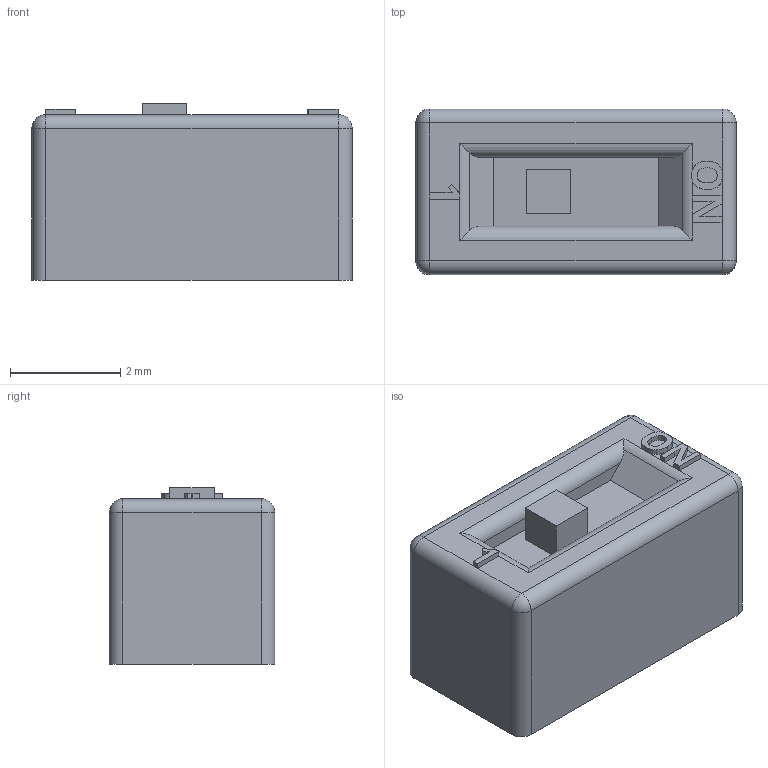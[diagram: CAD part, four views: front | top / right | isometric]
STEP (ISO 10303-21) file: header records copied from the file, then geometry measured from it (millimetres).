
FILE_DESCRIPTION(/* description */ ('STEP AP242 Edition 2','CAx-IF Rec.Pracs.---Representation and Presentation of Product Manufacturing Information (PMI)---4.0---2014-10-13','CAx-IF Rec.Pracs.---3D Tessellated Geometry---0.4---2014-09-14','2;1','CAx-IF Rec.Pracs.---User Defined Attributes---1.5---2016-08-15'),/* implementation_level */ '2;1');
FILE_NAME(/* name */ 'v2_assembly - v2 - dip_switch',/* time_stamp */ '2026-05-19T16:26:08Z',/* author */ (''),/* organization */ (''),/* preprocessor_version */ 'ST-DEVELOPER v20',/* originating_system */ 'ONSHAPE BY PTC INC, 1.215',/* authorisation */ ' ');
FILE_SCHEMA (('AP242_MANAGED_MODEL_BASED_3D_ENGINEERING_MIM_LF { 1 0 10303 442 3 1 4 }'));
Length unit declared in the file: metre
Products named in the file (1): v2 - dip_switch
Bounding box: 5.8 x 3 x 3.2 mm (x, y, z)
Volume: 50 mm3; surface area: 90.5 mm2
Topology: 1 solids, 1 shells, 78 faces, 202 edges, 124 vertices
Faces by surface type: plane 46, cylinder 18, bspline 10, sphere 4
Entity records: 2436 total; most frequent: CARTESIAN_POINT 538, ORIENTED_EDGE 396, DIRECTION 344, EDGE_CURVE 198, LINE 134, VECTOR 134, VERTEX_POINT 124, AXIS2_PLACEMENT_3D 105
